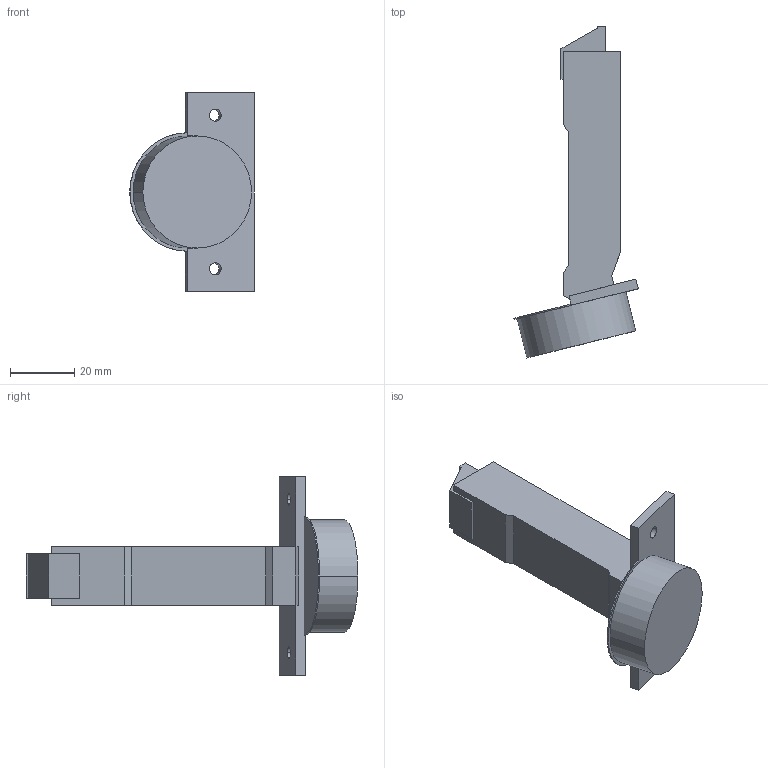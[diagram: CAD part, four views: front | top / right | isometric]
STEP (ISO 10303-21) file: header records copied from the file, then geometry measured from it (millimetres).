
FILE_DESCRIPTION (( 'STEP AP214' ), '1' );
FILE_NAME ('Scharnier TS Click-on 120°_-15° M_BB, aufliegend.step', '2010-12-13T09:57:35', ( 'grass' ), ( '' ), 'SwSTEP 2.0', 'SolidWorks 2010', '' );
FILE_SCHEMA (( 'AUTOMOTIVE_DESIGN' ));
Length unit declared in the file: millimetre
Products named in the file (1): Scharnier TS Click-on 120°_-15° M_BB, aufliegend
Bounding box: 38.91 x 103.72 x 62 mm (x, y, z)
Volume: 39889.8 mm3; surface area: 11393.5 mm2
Topology: 1 solids, 1 shells, 46 faces, 120 edges, 80 vertices
Faces by surface type: plane 33, cylinder 13
Entity records: 1452 total; most frequent: CARTESIAN_POINT 247, ORIENTED_EDGE 240, DIRECTION 240, EDGE_CURVE 120, VECTOR 94, LINE 94, VERTEX_POINT 80, AXIS2_PLACEMENT_3D 73
